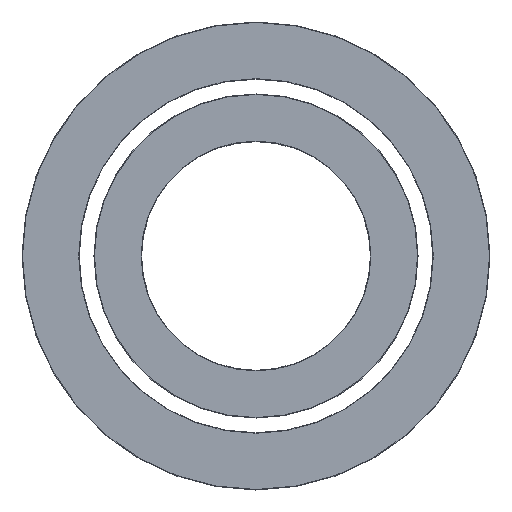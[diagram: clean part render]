
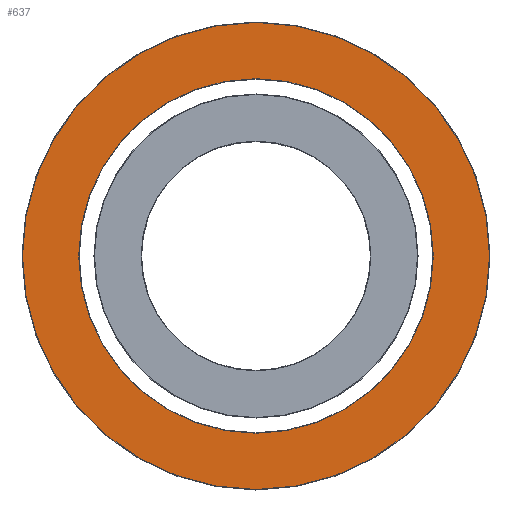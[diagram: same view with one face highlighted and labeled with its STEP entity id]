
A CAD part, top view. The second image highlights one B-rep face of the part: STEP entity #637.
In plain terms, the highlighted planar face has unit normal (0, 0, 1).
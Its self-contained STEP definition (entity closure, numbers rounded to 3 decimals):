
#548=CARTESIAN_POINT('',(0.,0.,0.76));
#549=DIRECTION('',(0.,0.,-1.));
#550=DIRECTION('',(1.,0.,0.));
#551=AXIS2_PLACEMENT_3D('',#548,#549,#550);
#553=CARTESIAN_POINT('',(0.,0.,0.76));
#554=DIRECTION('',(0.,0.,-1.));
#555=DIRECTION('',(-1.,0.,0.));
#556=AXIS2_PLACEMENT_3D('',#553,#554,#555);
#558=CARTESIAN_POINT('',(0.,0.,0.76));
#559=DIRECTION('',(0.,0.,1.));
#560=DIRECTION('',(1.,0.,0.));
#561=AXIS2_PLACEMENT_3D('',#558,#559,#560);
#563=CARTESIAN_POINT('',(0.,0.,0.76));
#564=DIRECTION('',(0.,0.,1.));
#565=DIRECTION('',(-1.,0.,0.));
#566=AXIS2_PLACEMENT_3D('',#563,#564,#565);
#604=CARTESIAN_POINT('',(24.5,0.,0.76));
#605=CARTESIAN_POINT('',(-24.5,0.,0.76));
#606=VERTEX_POINT('',#604);
#607=VERTEX_POINT('',#605);
#608=CARTESIAN_POINT('',(18.6,0.,0.76));
#609=CARTESIAN_POINT('',(-18.6,0.,0.76));
#610=VERTEX_POINT('',#608);
#611=VERTEX_POINT('',#609);
#620=CARTESIAN_POINT('',(0.,0.,0.76));
#621=DIRECTION('',(0.,0.,-1.));
#622=DIRECTION('',(-1.,0.,0.));
#623=AXIS2_PLACEMENT_3D('',#620,#621,#622);
#624=PLANE('',#623);
#626=ORIENTED_EDGE('',*,*,#625,.T.);
#628=ORIENTED_EDGE('',*,*,#627,.T.);
#629=EDGE_LOOP('',(#626,#628));
#630=FACE_OUTER_BOUND('',#629,.F.);
#632=ORIENTED_EDGE('',*,*,#631,.T.);
#634=ORIENTED_EDGE('',*,*,#633,.T.);
#635=EDGE_LOOP('',(#632,#634));
#636=FACE_BOUND('',#635,.F.);
#637=ADVANCED_FACE('',(#630,#636),#624,.F.);
#552=CIRCLE('',#551,24.5);
#557=CIRCLE('',#556,24.5);
#562=CIRCLE('',#561,18.6);
#567=CIRCLE('',#566,18.6);
#625=EDGE_CURVE('',#606,#607,#552,.T.);
#627=EDGE_CURVE('',#607,#606,#557,.T.);
#631=EDGE_CURVE('',#610,#611,#562,.T.);
#633=EDGE_CURVE('',#611,#610,#567,.T.);
